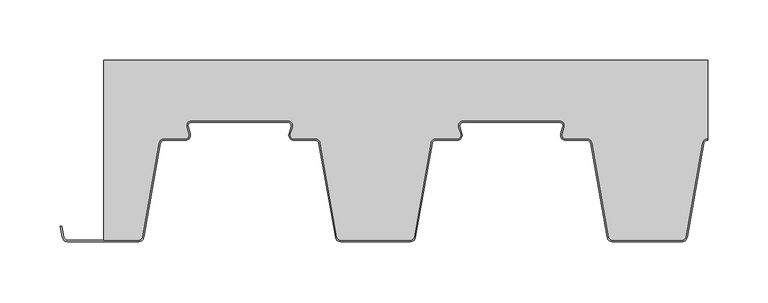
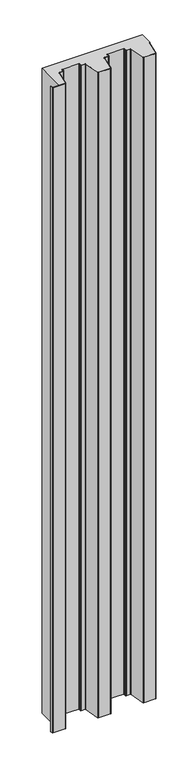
"""IFC4 building model written with IfcOpenShell, lengths in millimetres: plate geometry, HIANSA- H20.F10.003 - FORJADO COLABORANTE - MT-100 - Panel de Muro Cortina : -."""

from ifc_helpers import new_model, si_unit, point, frame_2d, origin, origin_with_axes, place, context, project, spatial, polyline, circle_curve, trimmed, segment, composite_curve, outline, extrude, source, transform, mapped, element, save


def plate_c60c1d2b(model_context):
    return source(origin(), model_context, "Body", "SweptSolid", [
        extrude(outline(composite_curve([segment(trimmed(circle_curve(frame_2d((249.7935, 80.8)), 4.2), [point((249.7935, 85.0))], [point((245.6573075, 81.5293223))], True, "CARTESIAN"), True, "CONTINUOUS"), segment(polyline([(245.6573075, 81.5293223), (231.930205, 3.6790555)]), True, "CONTINUOUS"), segment(trimmed(circle_curve(frame_2d((228.9757817, 4.2)), 3.0), [point((231.930205, 3.6790555))], [point((228.9757817, 1.2))], False, "CARTESIAN"), True, "CONTINUOUS"), segment(polyline([(228.9757817, 1.2), (171.0242186, 1.2)]), True, "CONTINUOUS"), segment(trimmed(circle_curve(frame_2d((171.0242186, 4.2)), 3.0), [point((171.0242186, 1.2))], [point((168.0697953, 3.6790555))], False, "CARTESIAN"), True, "CONTINUOUS"), segment(polyline([(168.0697953, 3.6790555), (154.3426928, 81.5293223)]), True, "CONTINUOUS"), segment(trimmed(circle_curve(frame_2d((150.2065003, 80.8)), 4.2), [point((154.3426928, 81.5293223))], [point((150.2065003, 85.0))], True, "CARTESIAN"), True, "CONTINUOUS"), segment(polyline([(150.2065003, 85.0), (132.4442815, 85.0)]), True, "CONTINUOUS"), segment(trimmed(circle_curve(frame_2d((132.4442815, 88.0)), 3.0), [point((132.4442815, 85.0))], [point((129.5753672, 88.8771151))], False, "CARTESIAN"), True, "CONTINUOUS"), segment(polyline([(129.5753672, 88.8771151), (131.3164801, 94.5720388)]), True, "CONTINUOUS"), segment(trimmed(circle_curve(frame_2d((127.3000002, 95.8)), 4.2), [point((131.3164801, 94.5720388))], [point((127.3000002, 100.0))], True, "CARTESIAN"), True, "CONTINUOUS"), segment(polyline([(127.3000002, 100.0), (47.7000002, 100.0)]), True, "CONTINUOUS"), segment(trimmed(circle_curve(frame_2d((47.7000002, 95.8)), 4.2), [point((47.7000002, 100.0))], [point((43.6835202, 94.5720388))], True, "CARTESIAN"), True, "CONTINUOUS"), segment(polyline([(43.6835202, 94.5720388), (45.4246331, 88.8771151)]), True, "CONTINUOUS"), segment(trimmed(circle_curve(frame_2d((42.5557188, 88.0)), 3.0), [point((45.4246331, 88.8771151))], [point((42.5557188, 85.0))], False, "CARTESIAN"), True, "CONTINUOUS"), segment(polyline([(42.5557188, 85.0), (24.7935, 85.0)]), True, "CONTINUOUS"), segment(trimmed(circle_curve(frame_2d((24.7935, 80.8)), 4.2), [point((24.7935, 85.0))], [point((20.6573075, 81.5293223))], True, "CARTESIAN"), True, "CONTINUOUS"), segment(polyline([(20.6573075, 81.5293223), (6.930205, 3.6790555)]), True, "CONTINUOUS"), segment(trimmed(circle_curve(frame_2d((3.9757817, 4.2)), 3.0), [point((6.930205, 3.6790555))], [point((3.9757817, 1.2))], False, "CARTESIAN"), True, "CONTINUOUS"), segment(polyline([(3.9757817, 1.2), (-53.9757814, 1.2)]), True, "CONTINUOUS"), segment(trimmed(circle_curve(frame_2d((-53.9757814, 4.2)), 3.0), [point((-53.9757814, 1.2))], [point((-56.9302047, 3.6790555))], False, "CARTESIAN"), True, "CONTINUOUS"), segment(polyline([(-56.9302047, 3.6790555), (-70.6573072, 81.5293223)]), True, "CONTINUOUS"), segment(trimmed(circle_curve(frame_2d((-74.7934997, 80.8)), 4.2), [point((-70.6573072, 81.5293223))], [point((-74.7934997, 85.0))], True, "CARTESIAN"), True, "CONTINUOUS"), segment(polyline([(-74.7934997, 85.0), (-92.5557185, 85.0)]), True, "CONTINUOUS"), segment(trimmed(circle_curve(frame_2d((-92.5557185, 88.0)), 3.0), [point((-92.5557185, 85.0))], [point((-95.4246328, 88.8771151))], False, "CARTESIAN"), True, "CONTINUOUS"), segment(polyline([(-95.4246328, 88.8771151), (-93.6835199, 94.5720388)]), True, "CONTINUOUS"), segment(trimmed(circle_curve(frame_2d((-97.6999998, 95.8)), 4.2), [point((-93.6835199, 94.5720388))], [point((-97.6999998, 100.0))], True, "CARTESIAN"), True, "CONTINUOUS"), segment(polyline([(-97.6999998, 100.0), (-177.2999998, 100.0)]), True, "CONTINUOUS"), segment(trimmed(circle_curve(frame_2d((-177.2999998, 95.8)), 4.2), [point((-177.2999998, 100.0))], [point((-181.3164798, 94.5720388))], True, "CARTESIAN"), True, "CONTINUOUS"), segment(polyline([(-181.3164798, 94.5720388), (-179.5753669, 88.8771151)]), True, "CONTINUOUS"), segment(trimmed(circle_curve(frame_2d((-182.4442812, 88.0)), 3.0), [point((-179.5753669, 88.8771151))], [point((-182.4442812, 85.0))], False, "CARTESIAN"), True, "CONTINUOUS"), segment(polyline([(-182.4442812, 85.0), (-200.2065, 85.0)]), True, "CONTINUOUS"), segment(trimmed(circle_curve(frame_2d((-200.2065, 80.8)), 4.2), [point((-200.2065, 85.0))], [point((-204.3426925, 81.5293223))], True, "CARTESIAN"), True, "CONTINUOUS"), segment(polyline([(-204.3426925, 81.5293223), (-218.069795, 3.6790555)]), True, "CONTINUOUS"), segment(trimmed(circle_curve(frame_2d((-221.0242183, 4.2)), 3.0), [point((-218.069795, 3.6790555))], [point((-221.0242183, 1.2))], False, "CARTESIAN"), True, "CONTINUOUS"), segment(polyline([(-221.0242183, 1.2), (-249.9999998, 1.2), (-249.9999998, 150.0), (249.9999998, 150.0), (249.9999998, 85.0), (249.7935, 85.0)]), True, "CONTINUOUS")], self_intersect=False)), origin_with_axes(), (0.0, 0.0, 1.0), 3390.8509027),
        extrude(outline(composite_curve([segment(trimmed(circle_curve(frame_2d((249.7935, 80.8)), 3.0), [point((249.7935, 83.8))], [point((246.8390768, 81.3209445))], True, "CARTESIAN"), True, "CONTINUOUS"), segment(polyline([(246.8390768, 81.3209445), (233.1119743, 3.4706777)]), True, "CONTINUOUS"), segment(trimmed(circle_curve(frame_2d((228.9757817, 4.2)), 4.2), [point((233.1119743, 3.4706777))], [point((228.9757817, 0.0))], False, "CARTESIAN"), True, "CONTINUOUS"), segment(polyline([(228.9757817, 0.0), (171.0242186, 0.0)]), True, "CONTINUOUS"), segment(trimmed(circle_curve(frame_2d((171.0242186, 4.2)), 4.2), [point((171.0242186, 0.0))], [point((166.888026, 3.4706777))], False, "CARTESIAN"), True, "CONTINUOUS"), segment(polyline([(166.888026, 3.4706777), (153.1609235, 81.3209445)]), True, "CONTINUOUS"), segment(trimmed(circle_curve(frame_2d((150.2065003, 80.8)), 3.0), [point((153.1609235, 81.3209445))], [point((150.2065003, 83.8))], True, "CARTESIAN"), True, "CONTINUOUS"), segment(polyline([(150.2065003, 83.8), (132.4442815, 83.8)]), True, "CONTINUOUS"), segment(trimmed(circle_curve(frame_2d((132.4442815, 88.0)), 4.2), [point((132.4442815, 83.8))], [point((128.4278015, 89.2279612))], False, "CARTESIAN"), True, "CONTINUOUS"), segment(polyline([(128.4278015, 89.2279612), (130.1689144, 94.9228849)]), True, "CONTINUOUS"), segment(trimmed(circle_curve(frame_2d((127.3000002, 95.8)), 3.0), [point((130.1689144, 94.9228849))], [point((127.3000002, 98.8))], True, "CARTESIAN"), True, "CONTINUOUS"), segment(polyline([(127.3000002, 98.8), (47.7000002, 98.8)]), True, "CONTINUOUS"), segment(trimmed(circle_curve(frame_2d((47.7000002, 95.8)), 3.0), [point((47.7000002, 98.8))], [point((44.8310859, 94.9228849))], True, "CARTESIAN"), True, "CONTINUOUS"), segment(polyline([(44.8310859, 94.9228849), (46.5721988, 89.2279612)]), True, "CONTINUOUS"), segment(trimmed(circle_curve(frame_2d((42.5557188, 88.0)), 4.2), [point((46.5721988, 89.2279612))], [point((42.5557188, 83.8))], False, "CARTESIAN"), True, "CONTINUOUS"), segment(polyline([(42.5557188, 83.8), (24.7935, 83.8)]), True, "CONTINUOUS"), segment(trimmed(circle_curve(frame_2d((24.7935, 80.8)), 3.0), [point((24.7935, 83.8))], [point((21.8390768, 81.3209445))], True, "CARTESIAN"), True, "CONTINUOUS"), segment(polyline([(21.8390768, 81.3209445), (8.1119743, 3.4706777)]), True, "CONTINUOUS"), segment(trimmed(circle_curve(frame_2d((3.9757817, 4.2)), 4.2), [point((8.1119743, 3.4706777))], [point((3.9757817, 0.0))], False, "CARTESIAN"), True, "CONTINUOUS"), segment(polyline([(3.9757817, 0.0), (-53.9757814, 0.0)]), True, "CONTINUOUS"), segment(trimmed(circle_curve(frame_2d((-53.9757814, 4.2)), 4.2), [point((-53.9757814, 0.0))], [point((-58.111974, 3.4706777))], False, "CARTESIAN"), True, "CONTINUOUS"), segment(polyline([(-58.111974, 3.4706777), (-71.8390765, 81.3209445)]), True, "CONTINUOUS"), segment(trimmed(circle_curve(frame_2d((-74.7934997, 80.8)), 3.0), [point((-71.8390765, 81.3209445))], [point((-74.7934997, 83.8))], True, "CARTESIAN"), True, "CONTINUOUS"), segment(polyline([(-74.7934997, 83.8), (-92.5557185, 83.8)]), True, "CONTINUOUS"), segment(trimmed(circle_curve(frame_2d((-92.5557185, 88.0)), 4.2), [point((-92.5557185, 83.8))], [point((-96.5721985, 89.2279612))], False, "CARTESIAN"), True, "CONTINUOUS"), segment(polyline([(-96.5721985, 89.2279612), (-94.8310856, 94.9228849)]), True, "CONTINUOUS"), segment(trimmed(circle_curve(frame_2d((-97.6999998, 95.8)), 3.0), [point((-94.8310856, 94.9228849))], [point((-97.6999998, 98.8))], True, "CARTESIAN"), True, "CONTINUOUS"), segment(polyline([(-97.6999998, 98.8), (-177.2999998, 98.8)]), True, "CONTINUOUS"), segment(trimmed(circle_curve(frame_2d((-177.2999998, 95.8)), 3.0), [point((-177.2999998, 98.8))], [point((-180.1689141, 94.9228849))], True, "CARTESIAN"), True, "CONTINUOUS"), segment(polyline([(-180.1689141, 94.9228849), (-178.4278012, 89.2279612)]), True, "CONTINUOUS"), segment(trimmed(circle_curve(frame_2d((-182.4442812, 88.0)), 4.2), [point((-178.4278012, 89.2279612))], [point((-182.4442812, 83.8))], False, "CARTESIAN"), True, "CONTINUOUS"), segment(polyline([(-182.4442812, 83.8), (-200.2065, 83.8)]), True, "CONTINUOUS"), segment(trimmed(circle_curve(frame_2d((-200.2065, 80.8)), 3.0), [point((-200.2065, 83.8))], [point((-203.1609232, 81.3209445))], True, "CARTESIAN"), True, "CONTINUOUS"), segment(polyline([(-203.1609232, 81.3209445), (-216.8880257, 3.4706777)]), True, "CONTINUOUS"), segment(trimmed(circle_curve(frame_2d((-221.0242183, 4.2)), 4.2), [point((-216.8880257, 3.4706777))], [point((-221.0242183, 0.0))], False, "CARTESIAN"), True, "CONTINUOUS"), segment(polyline([(-221.0242183, 0.0), (-280.1942933, 0.0)]), True, "CONTINUOUS"), segment(trimmed(circle_curve(frame_2d((-280.1942933, 4.2)), 4.2), [point((-280.1942933, 0.0))], [point((-284.3304859, 3.4706777))], False, "CARTESIAN"), True, "CONTINUOUS"), segment(polyline([(-284.3304859, 3.4706777), (-285.9212595, 12.4924034), (-284.7394902, 12.7007812), (-283.1487166, 3.6790555)]), True, "CONTINUOUS"), segment(trimmed(circle_curve(frame_2d((-280.1942933, 4.2)), 3.0), [point((-283.1487166, 3.6790555))], [point((-280.1942933, 1.2))], True, "CARTESIAN"), True, "CONTINUOUS"), segment(polyline([(-280.1942933, 1.2), (-221.0242183, 1.2)]), True, "CONTINUOUS"), segment(trimmed(circle_curve(frame_2d((-221.0242183, 4.2)), 3.0), [point((-221.0242183, 1.2))], [point((-218.069795, 3.6790555))], True, "CARTESIAN"), True, "CONTINUOUS"), segment(polyline([(-218.069795, 3.6790555), (-204.3426925, 81.5293223)]), True, "CONTINUOUS"), segment(trimmed(circle_curve(frame_2d((-200.2065, 80.8)), 4.2), [point((-204.3426925, 81.5293223))], [point((-200.2065, 85.0))], False, "CARTESIAN"), True, "CONTINUOUS"), segment(polyline([(-200.2065, 85.0), (-182.4442812, 85.0)]), True, "CONTINUOUS"), segment(trimmed(circle_curve(frame_2d((-182.4442812, 88.0)), 3.0), [point((-182.4442812, 85.0))], [point((-179.5753669, 88.8771151))], True, "CARTESIAN"), True, "CONTINUOUS"), segment(polyline([(-179.5753669, 88.8771151), (-181.3164798, 94.5720388)]), True, "CONTINUOUS"), segment(trimmed(circle_curve(frame_2d((-177.2999998, 95.8)), 4.2), [point((-181.3164798, 94.5720388))], [point((-177.2999998, 100.0))], False, "CARTESIAN"), True, "CONTINUOUS"), segment(polyline([(-177.2999998, 100.0), (-97.6999998, 100.0)]), True, "CONTINUOUS"), segment(trimmed(circle_curve(frame_2d((-97.6999998, 95.8)), 4.2), [point((-97.6999998, 100.0))], [point((-93.6835199, 94.5720388))], False, "CARTESIAN"), True, "CONTINUOUS"), segment(polyline([(-93.6835199, 94.5720388), (-95.4246328, 88.8771151)]), True, "CONTINUOUS"), segment(trimmed(circle_curve(frame_2d((-92.5557185, 88.0)), 3.0), [point((-95.4246328, 88.8771151))], [point((-92.5557185, 85.0))], True, "CARTESIAN"), True, "CONTINUOUS"), segment(polyline([(-92.5557185, 85.0), (-74.7934997, 85.0)]), True, "CONTINUOUS"), segment(trimmed(circle_curve(frame_2d((-74.7934997, 80.8)), 4.2), [point((-74.7934997, 85.0))], [point((-70.6573072, 81.5293223))], False, "CARTESIAN"), True, "CONTINUOUS"), segment(polyline([(-70.6573072, 81.5293223), (-56.9302047, 3.6790555)]), True, "CONTINUOUS"), segment(trimmed(circle_curve(frame_2d((-53.9757814, 4.2)), 3.0), [point((-56.9302047, 3.6790555))], [point((-53.9757814, 1.2))], True, "CARTESIAN"), True, "CONTINUOUS"), segment(polyline([(-53.9757814, 1.2), (3.9757817, 1.2)]), True, "CONTINUOUS"), segment(trimmed(circle_curve(frame_2d((3.9757817, 4.2)), 3.0), [point((3.9757817, 1.2))], [point((6.930205, 3.6790555))], True, "CARTESIAN"), True, "CONTINUOUS"), segment(polyline([(6.930205, 3.6790555), (20.6573075, 81.5293223)]), True, "CONTINUOUS"), segment(trimmed(circle_curve(frame_2d((24.7935, 80.8)), 4.2), [point((20.6573075, 81.5293223))], [point((24.7935, 85.0))], False, "CARTESIAN"), True, "CONTINUOUS"), segment(polyline([(24.7935, 85.0), (42.5557188, 85.0)]), True, "CONTINUOUS"), segment(trimmed(circle_curve(frame_2d((42.5557188, 88.0)), 3.0), [point((42.5557188, 85.0))], [point((45.4246331, 88.8771151))], True, "CARTESIAN"), True, "CONTINUOUS"), segment(polyline([(45.4246331, 88.8771151), (43.6835202, 94.5720388)]), True, "CONTINUOUS"), segment(trimmed(circle_curve(frame_2d((47.7000002, 95.8)), 4.2), [point((43.6835202, 94.5720388))], [point((47.7000002, 100.0))], False, "CARTESIAN"), True, "CONTINUOUS"), segment(polyline([(47.7000002, 100.0), (127.3000002, 100.0)]), True, "CONTINUOUS"), segment(trimmed(circle_curve(frame_2d((127.3000002, 95.8)), 4.2), [point((127.3000002, 100.0))], [point((131.3164801, 94.5720388))], False, "CARTESIAN"), True, "CONTINUOUS"), segment(polyline([(131.3164801, 94.5720388), (129.5753672, 88.8771151)]), True, "CONTINUOUS"), segment(trimmed(circle_curve(frame_2d((132.4442815, 88.0)), 3.0), [point((129.5753672, 88.8771151))], [point((132.4442815, 85.0))], True, "CARTESIAN"), True, "CONTINUOUS"), segment(polyline([(132.4442815, 85.0), (150.2065003, 85.0)]), True, "CONTINUOUS"), segment(trimmed(circle_curve(frame_2d((150.2065003, 80.8)), 4.2), [point((150.2065003, 85.0))], [point((154.3426928, 81.5293223))], False, "CARTESIAN"), True, "CONTINUOUS"), segment(polyline([(154.3426928, 81.5293223), (168.0697953, 3.6790555)]), True, "CONTINUOUS"), segment(trimmed(circle_curve(frame_2d((171.0242186, 4.2)), 3.0), [point((168.0697953, 3.6790555))], [point((171.0242186, 1.2))], True, "CARTESIAN"), True, "CONTINUOUS"), segment(polyline([(171.0242186, 1.2), (228.9757817, 1.2)]), True, "CONTINUOUS"), segment(trimmed(circle_curve(frame_2d((228.9757817, 4.2)), 3.0), [point((228.9757817, 1.2))], [point((231.930205, 3.6790555))], True, "CARTESIAN"), True, "CONTINUOUS"), segment(polyline([(231.930205, 3.6790555), (245.6573075, 81.5293223)]), True, "CONTINUOUS"), segment(trimmed(circle_curve(frame_2d((249.7935, 80.8)), 4.2), [point((245.6573075, 81.5293223))], [point((249.7935, 85.0))], False, "CARTESIAN"), True, "CONTINUOUS"), segment(polyline([(249.7935, 85.0), (249.9999998, 85.0), (249.9999998, 83.8), (249.7935, 83.8)]), True, "CONTINUOUS")], self_intersect=False)), origin_with_axes(), (0.0, 0.0, 1.0), 3390.8509027),
    ])


if __name__ == "__main__":
    model = new_model("IFC4")
    model_context = context("Model", 3, world=origin())
    ifc_project = project(units=[si_unit("LENGTHUNIT", "METRE", prefix="MILLI")], contexts=[model_context])
    site = spatial("IfcSite", under=ifc_project)
    building = spatial("IfcBuilding", under=site)
    placement = place(None, origin())
    plate_shape = plate_c60c1d2b(model_context)
    element("IfcPlate", 1, ObjectType="HIANSA- H20.F10.003 - FORJADO COLABORANTE - MT-100 - Panel de Muro Cortina : -", at=placement, inside=building, context=model_context, shape_type="MappedRepresentation", body=[
        mapped(plate_shape, transform((0.0, 0.0, 0.0), x_axis=(1.0, 0.0, 0.0), y_axis=(0.0, 1.0, 0.0), z_axis=(0.0, 0.0, 1.0))),
    ])
    save(model, "model.ifc")
